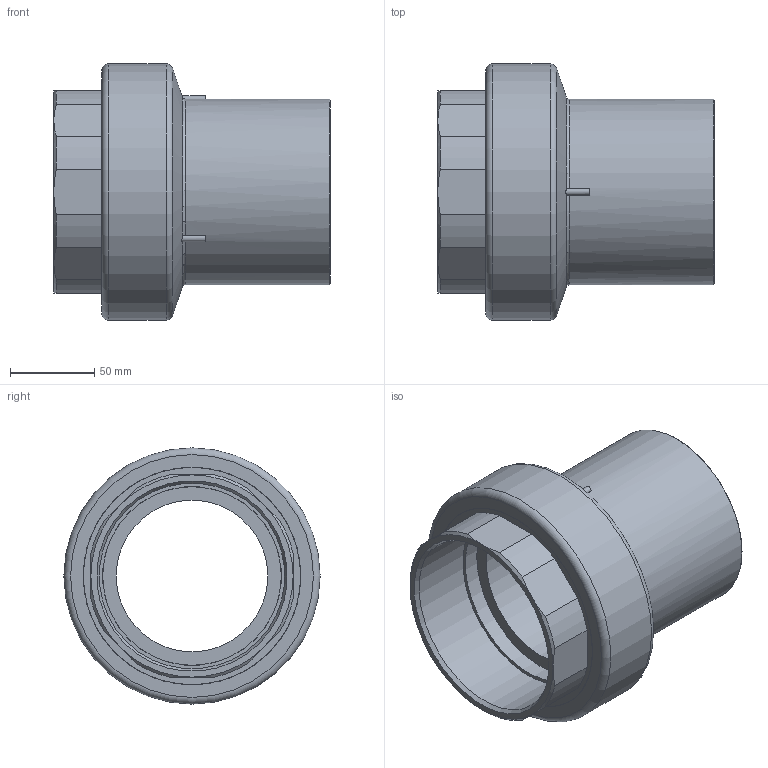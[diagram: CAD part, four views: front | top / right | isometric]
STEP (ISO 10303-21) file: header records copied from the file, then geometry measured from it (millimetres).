
FILE_DESCRIPTION(/* description */ ('Unknown'),/* implementation_level */ '2;1');
FILE_NAME(/* name */ 'RTOFP110C',/* time_stamp */ '2021-03-01T17:04:04+01:00',/* author */ ('Unknown'),/* organization */ ('Unknown'),/* preprocessor_version */ 'ST-DEVELOPER v16.7',/* originating_system */ 'Solid Edge',/* authorisation */ 'Unknown');
FILE_SCHEMA (('AUTOMOTIVE_DESIGN {1 0 10303 214 3 1 1}'));
Length unit declared in the file: millimetre
Products named in the file (3): RTOFP110C; Parte PE 110; IOF110C
Assembly tree (2 placements, depth 2):
  RTOFP110C
    Parte PE 110
    IOF110C
Bounding box: 164 x 152 x 152 mm (x, y, z)
Volume: 809697.3 mm3; surface area: 202179 mm2
Topology: 2 solids, 2 shells, 171 faces, 423 edges, 266 vertices
Faces by surface type: plane 89, cylinder 37, cone 19, bspline 15, torus 11
Full cylindrical faces by diameter (mm): 90 x1, 100 x2, 106 x2, 110 x1, 110.072 x1, 119 x2, 123.4 x2, 129 x8, 152 x1
Entity records: 5655 total; most frequent: CARTESIAN_POINT 1168, DIRECTION 828, ORIENTED_EDGE 766, EDGE_CURVE 383, AXIS2_PLACEMENT_3D 332, VERTEX_POINT 259, EDGE_LOOP 218, FACE_BOUND 218
